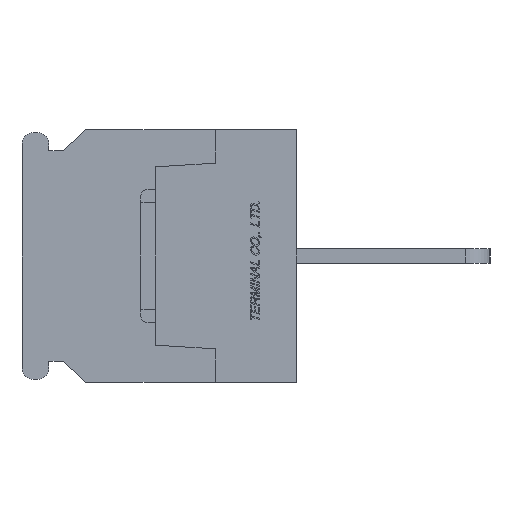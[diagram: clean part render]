
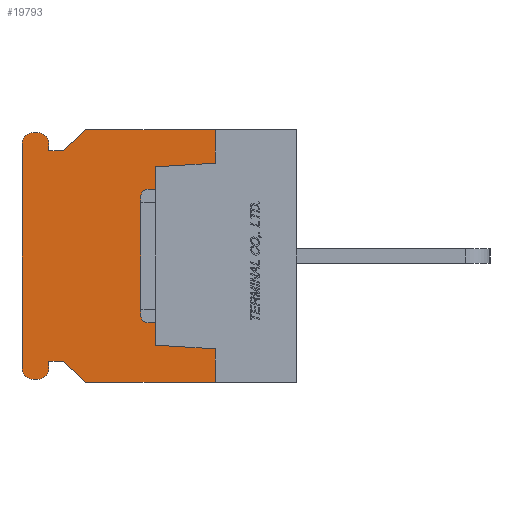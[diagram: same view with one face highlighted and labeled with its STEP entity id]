
A CAD part, left-side view. The second image highlights one B-rep face of the part: STEP entity #19793.
In plain terms, the highlighted planar face has unit normal (-1, 0, 0).
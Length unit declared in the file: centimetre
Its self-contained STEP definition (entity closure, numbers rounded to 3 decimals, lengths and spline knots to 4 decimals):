
#1604=VECTOR('',#23444,1.);
#1674=VECTOR('',#23540,1.);
#2049=VECTOR('',#24247,1.);
#2050=VECTOR('',#24248,1.);
#2051=VECTOR('',#24249,1.);
#2052=VECTOR('',#24250,1.);
#2053=VECTOR('',#24253,1.);
#2054=VECTOR('',#24256,1.);
#2055=VECTOR('',#24259,1.);
#2056=VECTOR('',#24262,1.);
#2057=VECTOR('',#24263,1.);
#2058=VECTOR('',#24264,1.);
#2059=VECTOR('',#24265,1.);
#2060=VECTOR('',#24266,1.);
#2061=VECTOR('',#24267,1.);
#2062=VECTOR('',#24268,1.);
#3768=LINE('',#28655,#1604);
#3838=LINE('',#28802,#1674);
#4213=LINE('',#29683,#2049);
#4214=LINE('',#29685,#2050);
#4215=LINE('',#29687,#2051);
#4216=LINE('',#29689,#2052);
#4217=LINE('',#29693,#2053);
#4218=LINE('',#29697,#2054);
#4219=LINE('',#29701,#2055);
#4220=LINE('',#29705,#2056);
#4221=LINE('',#29707,#2057);
#4222=LINE('',#29709,#2058);
#4223=LINE('',#29710,#2059);
#4224=LINE('',#29712,#2060);
#4225=LINE('',#29714,#2061);
#4226=LINE('',#29716,#2062);
#6050=VERTEX_POINT('',#28654);
#6051=VERTEX_POINT('',#28656);
#6109=VERTEX_POINT('',#28801);
#6110=VERTEX_POINT('',#28803);
#6382=VERTEX_POINT('',#29684);
#6383=VERTEX_POINT('',#29686);
#6384=VERTEX_POINT('',#29688);
#6385=VERTEX_POINT('',#29690);
#6386=VERTEX_POINT('',#29692);
#6387=VERTEX_POINT('',#29694);
#6388=VERTEX_POINT('',#29696);
#6389=VERTEX_POINT('',#29698);
#6390=VERTEX_POINT('',#29700);
#6391=VERTEX_POINT('',#29702);
#6392=VERTEX_POINT('',#29704);
#6393=VERTEX_POINT('',#29706);
#6394=VERTEX_POINT('',#29708);
#6395=VERTEX_POINT('',#29711);
#6396=VERTEX_POINT('',#29713);
#6397=VERTEX_POINT('',#29715);
#7543=CIRCLE('',#34136,0.075);
#7544=CIRCLE('',#34137,0.075);
#7545=CIRCLE('',#34138,0.075);
#7546=CIRCLE('',#34139,0.075);
#8915=EDGE_CURVE('',#6050,#6051,#3768,.T.);
#8989=EDGE_CURVE('',#6109,#6110,#3838,.T.);
#9430=EDGE_CURVE('',#6382,#6110,#4213,.T.);
#9431=EDGE_CURVE('',#6383,#6109,#4214,.T.);
#9432=EDGE_CURVE('',#6384,#6383,#4215,.T.);
#9433=EDGE_CURVE('',#6385,#6384,#4216,.T.);
#9434=EDGE_CURVE('',#6386,#6385,#7543,.T.);
#9435=EDGE_CURVE('',#6387,#6386,#4217,.T.);
#9436=EDGE_CURVE('',#6388,#6387,#7544,.T.);
#9437=EDGE_CURVE('',#6389,#6388,#4218,.T.);
#9438=EDGE_CURVE('',#6390,#6389,#7545,.T.);
#9439=EDGE_CURVE('',#6391,#6390,#4219,.T.);
#9440=EDGE_CURVE('',#6392,#6391,#7546,.T.);
#9441=EDGE_CURVE('',#6393,#6392,#4220,.T.);
#9442=EDGE_CURVE('',#6394,#6393,#4221,.T.);
#9443=EDGE_CURVE('',#6051,#6394,#4222,.T.);
#9444=EDGE_CURVE('',#6050,#6395,#4223,.T.);
#9445=EDGE_CURVE('',#6395,#6396,#4224,.T.);
#9446=EDGE_CURVE('',#6396,#6397,#4225,.T.);
#9447=EDGE_CURVE('',#6397,#6382,#4226,.T.);
#14206=ORIENTED_EDGE('',*,*,#9430,.T.);
#14207=ORIENTED_EDGE('',*,*,#8989,.F.);
#14208=ORIENTED_EDGE('',*,*,#9431,.F.);
#14209=ORIENTED_EDGE('',*,*,#9432,.F.);
#14210=ORIENTED_EDGE('',*,*,#9433,.F.);
#14211=ORIENTED_EDGE('',*,*,#9434,.F.);
#14212=ORIENTED_EDGE('',*,*,#9435,.F.);
#14213=ORIENTED_EDGE('',*,*,#9436,.F.);
#14214=ORIENTED_EDGE('',*,*,#9437,.F.);
#14215=ORIENTED_EDGE('',*,*,#9438,.F.);
#14216=ORIENTED_EDGE('',*,*,#9439,.F.);
#14217=ORIENTED_EDGE('',*,*,#9440,.F.);
#14218=ORIENTED_EDGE('',*,*,#9441,.F.);
#14219=ORIENTED_EDGE('',*,*,#9442,.F.);
#14220=ORIENTED_EDGE('',*,*,#9443,.F.);
#14221=ORIENTED_EDGE('',*,*,#8915,.F.);
#14222=ORIENTED_EDGE('',*,*,#9444,.T.);
#14223=ORIENTED_EDGE('',*,*,#9445,.T.);
#14224=ORIENTED_EDGE('',*,*,#9446,.T.);
#14225=ORIENTED_EDGE('',*,*,#9447,.T.);
#17348=EDGE_LOOP('',(#14206,#14207,#14208,#14209,#14210,#14211,#14212,#14213,
#14214,#14215,#14216,#14217,#14218,#14219,#14220,#14221,#14222,#14223,#14224,
#14225));
#18632=FACE_BOUND('',#17348,.T.);
#19793=ADVANCED_FACE('',(#18632),#20740,.F.);
#20740=PLANE('',#34135);
#23444=DIRECTION('',(0.,1.,0.));
#23540=DIRECTION('',(0.,-1.,0.));
#24246=DIRECTION('',(1.,0.,0.));
#24247=DIRECTION('',(0.,0.,1.));
#24248=DIRECTION('',(0.,-0.731,0.682));
#24249=DIRECTION('',(0.,-1.,0.));
#24250=DIRECTION('',(0.,0.,-1.));
#24251=DIRECTION('',(1.,0.,0.));
#24252=DIRECTION('',(0.,0.,-0.075));
#24253=DIRECTION('',(0.,-1.,0.));
#24254=DIRECTION('',(1.,0.,0.));
#24255=DIRECTION('',(0.,0.,-0.075));
#24256=DIRECTION('',(0.,0.,1.));
#24257=DIRECTION('',(1.,0.,0.));
#24258=DIRECTION('',(0.,0.,-0.075));
#24259=DIRECTION('',(0.,1.,0.));
#24260=DIRECTION('',(1.,0.,0.));
#24261=DIRECTION('',(0.,0.,-0.075));
#24262=DIRECTION('',(0.,0.,-1.));
#24263=DIRECTION('',(0.,1.,0.));
#24264=DIRECTION('',(0.,0.731,0.682));
#24265=DIRECTION('',(0.,0.,1.));
#24266=DIRECTION('',(0.,0.998,0.062));
#24267=DIRECTION('',(0.,0.,1.));
#24268=DIRECTION('',(0.,-0.998,0.062));
#28654=CARTESIAN_POINT('',(-1.,0.55,-0.85));
#28655=CARTESIAN_POINT('',(-1.,0.,-0.85));
#28656=CARTESIAN_POINT('',(-1.,1.42,-0.85));
#28801=CARTESIAN_POINT('',(-1.,1.42,0.85));
#28802=CARTESIAN_POINT('',(-1.,1.42,0.85));
#28803=CARTESIAN_POINT('',(-1.,0.55,0.85));
#29682=CARTESIAN_POINT('',(-1.,0.9383,0.));
#29683=CARTESIAN_POINT('',(-1.,0.55,0.3687));
#29684=CARTESIAN_POINT('',(-1.,0.55,0.625));
#29685=CARTESIAN_POINT('',(-1.,1.57,0.71));
#29686=CARTESIAN_POINT('',(-1.,1.57,0.71));
#29687=CARTESIAN_POINT('',(-1.,1.67,0.71));
#29688=CARTESIAN_POINT('',(-1.,1.67,0.71));
#29689=CARTESIAN_POINT('',(-1.,1.67,0.755));
#29690=CARTESIAN_POINT('',(-1.,1.67,0.755));
#29691=CARTESIAN_POINT('',(-1.,1.745,0.755));
#29692=CARTESIAN_POINT('',(-1.,1.745,0.83));
#29693=CARTESIAN_POINT('',(-1.,1.775,0.83));
#29694=CARTESIAN_POINT('',(-1.,1.775,0.83));
#29695=CARTESIAN_POINT('',(-1.,1.775,0.755));
#29696=CARTESIAN_POINT('',(-1.,1.85,0.755));
#29697=CARTESIAN_POINT('',(-1.,1.85,-0.755));
#29698=CARTESIAN_POINT('',(-1.,1.85,-0.755));
#29699=CARTESIAN_POINT('',(-1.,1.775,-0.755));
#29700=CARTESIAN_POINT('',(-1.,1.775,-0.83));
#29701=CARTESIAN_POINT('',(-1.,1.745,-0.83));
#29702=CARTESIAN_POINT('',(-1.,1.745,-0.83));
#29703=CARTESIAN_POINT('',(-1.,1.745,-0.755));
#29704=CARTESIAN_POINT('',(-1.,1.67,-0.755));
#29705=CARTESIAN_POINT('',(-1.,1.67,-0.71));
#29706=CARTESIAN_POINT('',(-1.,1.67,-0.71));
#29707=CARTESIAN_POINT('',(-1.,1.57,-0.71));
#29708=CARTESIAN_POINT('',(-1.,1.57,-0.71));
#29709=CARTESIAN_POINT('',(-1.,1.42,-0.85));
#29710=CARTESIAN_POINT('',(-1.,0.55,-0.3688));
#29711=CARTESIAN_POINT('',(-1.,0.55,-0.625));
#29712=CARTESIAN_POINT('',(-1.,0.8629,-0.6054));
#29713=CARTESIAN_POINT('',(-1.,0.95,-0.6));
#29714=CARTESIAN_POINT('',(-1.,0.95,0.));
#29715=CARTESIAN_POINT('',(-1.,0.95,0.6));
#29716=CARTESIAN_POINT('',(-1.,0.8629,0.6054));
#34135=AXIS2_PLACEMENT_3D('',#29682,#24246,$);
#34136=AXIS2_PLACEMENT_3D('',#29691,#24251,#24252);
#34137=AXIS2_PLACEMENT_3D('',#29695,#24254,#24255);
#34138=AXIS2_PLACEMENT_3D('',#29699,#24257,#24258);
#34139=AXIS2_PLACEMENT_3D('',#29703,#24260,#24261);
